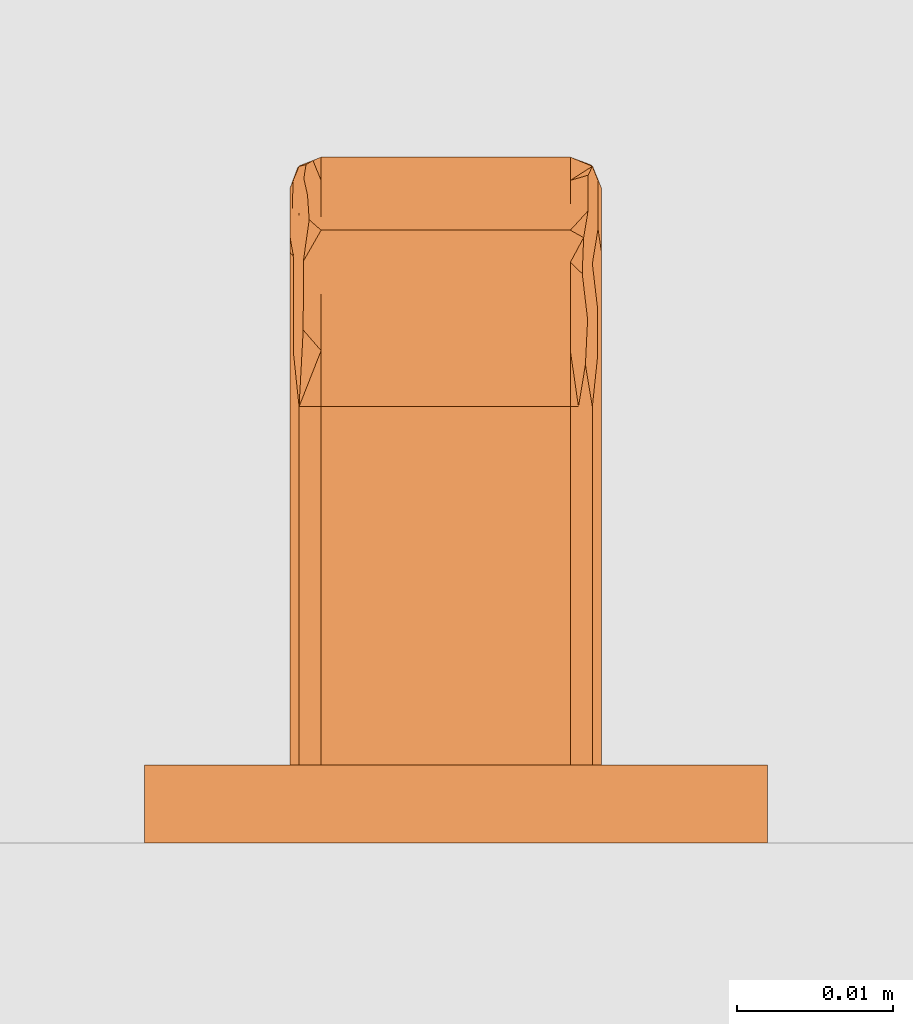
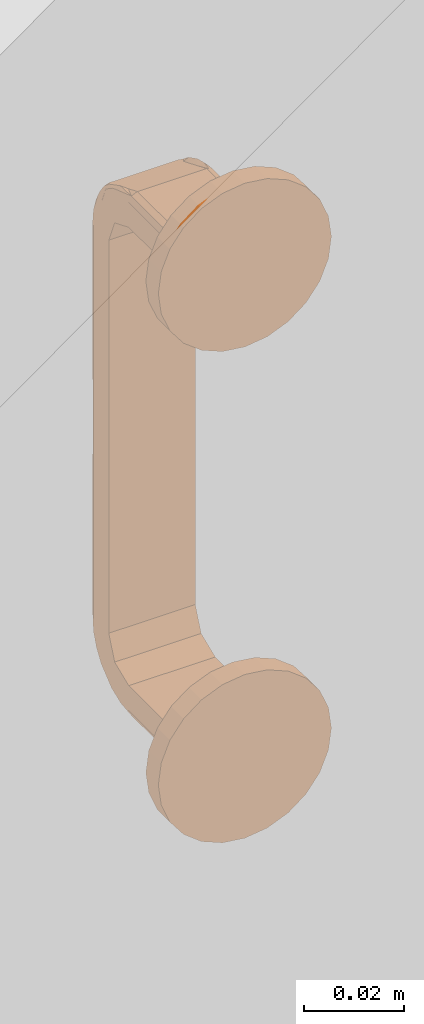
# One storey, part 44 of 67: 1 proxy.
"""IFC4 building model written with IfcOpenShell, lengths in millimetres."""

from ifc_helpers import new_model, entity, si_unit, converted_unit, direction, frame, origin, place, context, subcontext, project, spatial, polygons, source, transform, mapped, material, type_object, type_shapes, element, save


model = new_model("IFC4")

# Units and contexts
model_context = context("Model", 3, precision=0.01, world=origin(), true_north=direction((0.0, 1.0)))
body_context = subcontext(model_context, "Body", "Model", "MODEL_VIEW")
ifc_project = project(units=[si_unit("LENGTHUNIT", "METRE", prefix="MILLI"), si_unit("AREAUNIT", "SQUARE_METRE"), si_unit("VOLUMEUNIT", "CUBIC_METRE"), converted_unit("PLANEANGLEUNIT", "DEGREE", entity("IfcPlaneAngleMeasure", 0.017453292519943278), si_unit("PLANEANGLEUNIT", "RADIAN"), dimensions=[0, 0, 0, 0, 0, 0, 0])], contexts=[model_context])

# Site, building, storey, space
site_placement = place(None, origin())
site = spatial("IfcSite", under=ifc_project, at=site_placement, Name="Tomtens navn", CompositionType="ELEMENT")
building_placement = place(site_placement, origin())
building = spatial("IfcBuilding", under=site, at=building_placement, Name="Byggets navn", CompositionType="ELEMENT")
storey_placement = place(building_placement, origin())
storey = spatial("IfcBuildingStorey", under=building, at=storey_placement, Name="Level 01", CompositionType="ELEMENT", Elevation=2.1993652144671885e-25)
space_placement = place(storey_placement, origin())
space = spatial("IfcSpace", under=storey, at=space_placement, Name="102", CompositionType="ELEMENT", PredefinedType="NOTDEFINED")

# Proxy
ifc_material = material(Name="Handtag, vitt", Category="Unassigned")
building_element_proxy_type = type_object("IfcBuildingElementProxyType", Name="Handtag skåp1:Handtag skåp", PredefinedType="NOTDEFINED", material=ifc_material)
shared_shape = source(origin(), body_context, "Body", "Tessellation", [
    polygons([(8.670220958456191, -4.999999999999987, 4.021099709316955), (10.084434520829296, -4.9999999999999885, 3.435313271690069), (10.67022095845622, -4.999999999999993, 2.021099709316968), (10.67022095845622, -5.0000000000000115, -4.0210997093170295), (-9.32977904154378, -5.0000000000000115, -4.0210997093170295), (-9.32977904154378, -4.999999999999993, 2.021099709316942), (-8.743992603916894, -4.9999999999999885, 3.435313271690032), (-7.32977904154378, -4.999999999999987, 4.021099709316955), (8.670220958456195, -28.00000000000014, 4.0210997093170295), (10.084434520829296, -28.000000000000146, 3.435313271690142), (10.67022095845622, -28.00000000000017, 2.021099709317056), (8.670220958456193, -15.654960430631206, 4.02109970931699), (10.67022095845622, -17.34503987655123, 2.021099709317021), (10.08659387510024, -16.21238630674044, 3.433150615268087), (10.67022095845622, -37.914414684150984, -2.085585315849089), (10.67022095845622, -42.02109970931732, -11.999999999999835), (10.67022095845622, -42.02109970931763, -107.99999999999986), (10.67022095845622, -37.914414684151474, -117.91441468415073), (10.67022095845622, -28.00000000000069, -122.02109970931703), (10.67022095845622, -4.999999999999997, -122.02109970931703), (10.67022095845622, -4.999999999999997, -115.97890029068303), (10.67022095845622, -28.000000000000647, -115.97890029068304), (10.67022095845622, -33.641934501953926, -113.64193450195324), (10.67022095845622, -35.978900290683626, -107.99999999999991), (10.67022095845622, -35.978900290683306, -11.999999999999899), (10.67022095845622, -33.64193450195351, -6.358065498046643), (10.67022095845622, -28.000000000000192, -4.021099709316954), (-9.32977904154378, -28.000000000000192, -4.021099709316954), (-9.32977904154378, -33.64193450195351, -6.358065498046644), (-9.32977904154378, -35.97890029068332, -11.999999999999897), (-9.32977904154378, -35.97890029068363, -107.99999999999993), (-9.32977904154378, -33.641934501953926, -113.64193450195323), (-9.32977904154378, -28.000000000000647, -115.978900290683), (-9.32977904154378, -4.999999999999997, -115.978900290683), (-9.32977904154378, -4.999999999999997, -122.02109970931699), (-9.32977904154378, -28.00000000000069, -122.02109970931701), (-9.32977904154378, -37.91441468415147, -117.91441468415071), (-9.32977904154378, -42.0210997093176, -107.9999999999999), (-9.32977904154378, -42.02109970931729, -11.99999999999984), (-9.32977904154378, -37.91441468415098, -2.085585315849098), (-9.32977904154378, -28.000000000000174, 2.0210997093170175), (-8.743992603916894, -28.000000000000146, 3.435313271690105), (-7.329779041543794, -28.000000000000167, 4.0210997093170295), (-9.32977904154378, -15.654960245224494, 2.0210997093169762), (-7.3297790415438, -17.3450402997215, 4.021099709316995), (-8.741829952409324, -16.212386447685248, 3.4374726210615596), (8.670220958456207, -39.328628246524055, -0.6713717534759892), (8.670220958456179, -44.021099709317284, -11.999999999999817), (10.084434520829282, -43.43531327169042, -11.999999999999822), (10.67022095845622, -31.601265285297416, 0.5294067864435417), (8.670220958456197, -41.037713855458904, -4.797469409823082), (10.084434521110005, -40.40873190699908, -2.820007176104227), (8.670220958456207, -35.20253058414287, 1.0377138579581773), (9.809043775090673, -37.34144424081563, 0.5752165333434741), (9.818751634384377, -32.92350079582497, 2.8642465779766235), (10.67022095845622, -39.96775719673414, -7.042792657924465), (10.377327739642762, -28.000000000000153, 2.7282064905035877), (8.670220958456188, -42.529406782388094, -8.398734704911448), (9.779150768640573, -42.65191997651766, -6.400304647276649), (10.431420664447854, -34.75591670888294, 1.3575143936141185), (10.447049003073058, -37.641402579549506, -0.5884869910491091), (10.67022095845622, -34.7578399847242, -0.7780892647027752), (10.453824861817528, -31.5292743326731, 2.5026982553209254), (8.670220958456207, -31.601265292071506, 2.5294067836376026), (8.670220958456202, -40.18317105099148, -2.7344205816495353), (9.435587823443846, -40.00295364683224, -1.6197407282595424), (9.543801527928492, -41.59747716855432, -3.9137042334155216), (10.67022095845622, -38.941085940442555, -4.564188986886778), (10.502246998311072, -40.95405539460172, -4.794062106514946), (10.477567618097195, -42.45420227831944, -8.476170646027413), (9.193272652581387, -43.80444460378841, -11.999999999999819), (9.638611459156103, -43.53877057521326, -9.303396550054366), (10.67022095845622, -40.99442845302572, -9.521396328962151), (-7.329779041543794, -44.021099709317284, -11.999999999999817), (-7.329779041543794, -39.328628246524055, -0.6713717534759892), (-8.743992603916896, -43.43531327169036, -11.999999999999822), (-7.329779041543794, -35.20253057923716, 1.0377138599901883), (-8.743992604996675, -37.179992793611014, 0.40873192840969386), (-9.32977904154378, -40.52940677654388, -8.39873469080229), (-7.329779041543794, -41.03771385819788, -4.7974694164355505), (-8.468601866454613, -40.57521654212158, -2.658555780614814), (-8.478309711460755, -42.86424658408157, -7.076499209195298), (-9.32977904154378, -32.95720734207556, -0.03224280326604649), (-9.036885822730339, -42.72820649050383, -11.999999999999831), (-7.329779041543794, -31.601265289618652, 2.529406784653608), (-8.43870885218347, -33.59969531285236, 2.6519199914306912), (-9.090978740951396, -41.35751443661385, -5.244083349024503), (-9.106607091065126, -39.41151304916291, -2.3585974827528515), (-9.32977904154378, -39.221910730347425, -5.242160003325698), (-9.11338295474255, -42.50269824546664, -8.470725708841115), (-7.329779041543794, -42.52940678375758, -8.398734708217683), (-7.329779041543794, -37.26557941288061, 0.18317105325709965), (-8.095145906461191, -36.54048464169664, 1.37463273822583), (-8.182791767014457, -38.855367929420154, -0.47819170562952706), (-9.32977904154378, -35.43581101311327, -1.0589140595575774), (-7.852830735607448, -28.00000000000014, 3.8044446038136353), (-8.29816953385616, -30.69660343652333, 3.5387705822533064), (-9.060718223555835, -31.048754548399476, 2.7104148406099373), (-9.074370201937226, -34.340507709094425, 1.5930015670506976), (-9.32977904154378, -30.47860367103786, 0.9944284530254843), (-7.32977904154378, -33.664314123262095, 1.6748639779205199), (8.670220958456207, -33.664314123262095, 1.6748639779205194), (8.670220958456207, -30.748770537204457, 2.882521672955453), (-7.32977904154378, -41.67486397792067, -6.335685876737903), (8.670220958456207, -41.67486397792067, -6.335685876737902), (8.670220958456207, -40.50174611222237, -3.5035288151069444), (-7.32977904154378, -36.496471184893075, 0.5017461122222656), (8.670220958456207, -36.496471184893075, 0.5017461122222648), (-7.32977904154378, -30.83215706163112, 2.847981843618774), (8.670220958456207, -42.882521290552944, -9.251228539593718), (-7.32977904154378, -42.84798184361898, -9.167842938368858), (-7.32977904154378, -40.501746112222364, -3.5035288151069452), (8.670220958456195, -44.0210997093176, -107.99999999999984), (10.084434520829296, -43.435313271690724, -107.99999999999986), (10.67022095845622, -42.02109970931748, -61.38015936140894), (8.670220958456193, -44.021099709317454, -59.99999999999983), (8.670220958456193, -44.02109970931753, -83.30991987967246), (10.67022095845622, -42.02109970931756, -84.69007929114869), (8.670220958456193, -44.021099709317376, -36.69008012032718), (10.67022095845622, -42.02109970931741, -36.69007929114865), (10.67022095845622, -42.02109970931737, -24.34503925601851), (8.670220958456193, -44.021099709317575, -95.65495940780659), (8.670220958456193, -44.02109970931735, -24.345040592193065), (10.67022095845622, -42.021099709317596, -95.65495996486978), (10.084434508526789, -43.43531328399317, -90.1725199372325), (10.67022095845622, -42.021099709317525, -73.03511932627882), (10.043884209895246, -43.4747328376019, -67.20763959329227), (10.084434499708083, -43.435313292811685, -30.517560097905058), (10.084434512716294, -43.435313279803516, -43.7229280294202), (10.67022095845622, -42.021099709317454, -49.035119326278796), (10.049878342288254, -43.469044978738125, -55.462843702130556), (8.670220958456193, -44.02109970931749, -71.65495993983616), (10.188152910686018, -43.32336027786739, -78.66752152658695), (8.670220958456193, -44.02109970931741, -48.345040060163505), (-8.743992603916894, -43.43531327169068, -107.99999999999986), (-7.329779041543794, -44.0210997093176, -107.99999999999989), (-7.3297790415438, -44.02109970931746, -61.38015933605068), (-9.32977904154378, -42.021099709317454, -59.999999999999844), (-9.32977904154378, -42.02109970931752, -83.30992008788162), (-7.329779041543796, -44.02109970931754, -84.69007966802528), (-9.32977904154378, -42.02109970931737, -36.6900794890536), (-7.329779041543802, -44.021099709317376, -36.69007998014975), (-7.329779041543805, -44.02109970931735, -24.345039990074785), (-9.32977904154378, -42.02109970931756, -95.65495983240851), (-9.32977904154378, -42.02109970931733, -24.34503974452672), (-7.329779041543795, -44.021099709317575, -95.6549600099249), (-8.743992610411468, -43.43531326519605, -90.17252002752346), (-7.329779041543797, -44.0210997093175, -73.03511950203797), (-8.783412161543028, -43.39476296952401, -67.20763991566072), (-8.743992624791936, -43.43531325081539, -30.51756039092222), (-8.743992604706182, -43.43531327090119, -43.72292838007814), (-7.3297790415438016, -44.02109970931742, -49.03511997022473), (-8.777724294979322, -43.40075710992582, -55.462844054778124), (-9.32977904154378, -42.02109970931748, -71.65496025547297), (-8.632039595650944, -43.53903167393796, -78.66752173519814), (-9.32977904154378, -42.021099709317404, -48.34503974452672), (8.670220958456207, -39.32862824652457, -119.32862824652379), (8.670220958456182, -28.000000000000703, -124.02109970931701), (10.08443452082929, -28.0000000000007, -123.43531327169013), (10.67022095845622, -40.52940678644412, -111.60126528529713), (8.670220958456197, -35.202530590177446, -121.03771385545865), (10.084434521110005, -37.17999282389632, -120.40873190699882), (8.670220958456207, -41.03771385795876, -115.20253058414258), (9.809043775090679, -40.57521653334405, -117.34144424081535), (9.818751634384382, -42.864246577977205, -112.9235007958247), (10.67022095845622, -32.95720734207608, -119.96775719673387), (10.377327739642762, -42.728206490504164, -107.99999999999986), (8.67022095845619, -31.601265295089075, -122.52940678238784), (9.779150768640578, -33.59969535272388, -122.6519199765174), (10.431420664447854, -41.3575143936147, -114.75591670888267), (10.447049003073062, -39.41151300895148, -117.64140257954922), (10.67022095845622, -39.2219107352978, -114.75783998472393), (10.453824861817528, -42.50269825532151, -111.52927433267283), (8.670220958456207, -42.52940678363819, -111.60126529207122), (8.670220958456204, -37.26557941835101, -120.18317105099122), (9.435587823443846, -38.38025927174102, -120.00295364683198), (9.543801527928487, -36.08629576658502, -121.59747716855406), (10.67022095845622, -35.435811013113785, -118.9410859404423), (10.502246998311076, -35.205937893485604, -120.95405539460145), (10.477567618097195, -31.52382935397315, -122.45420227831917), (9.193272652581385, -28.0000000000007, -123.80444460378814), (9.638611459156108, -30.69660344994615, -123.538770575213), (10.67022095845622, -30.47860367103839, -120.99442845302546), (-7.329779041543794, -28.000000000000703, -124.02109970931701), (-7.329779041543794, -39.32862824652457, -119.32862824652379), (-8.743992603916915, -28.0000000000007, -123.43531327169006), (-7.329779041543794, -41.03771385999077, -115.20253057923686), (-8.743992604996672, -40.40873192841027, -117.17999279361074), (-9.32977904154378, -31.60126530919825, -120.52940677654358), (-7.329779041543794, -35.20253058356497, -121.03771385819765), (-8.468601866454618, -37.341444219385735, -120.57521654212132), (-8.478309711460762, -32.92350079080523, -122.8642465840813), (-9.32977904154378, -39.967757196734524, -112.9572073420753), (-9.036885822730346, -28.000000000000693, -122.72820649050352), (-7.329779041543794, -42.529406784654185, -111.60126528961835), (-8.438708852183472, -42.65191999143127, -113.59969531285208), (-9.090978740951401, -34.75591665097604, -121.35751443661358), (-9.106607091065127, -37.64140251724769, -119.41151304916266), (-9.32977904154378, -34.75783999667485, -119.22191073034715), (-9.113382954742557, -31.529274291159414, -122.50269824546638), (-7.329779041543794, -31.601265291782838, -122.52940678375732), (-7.329779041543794, -40.18317105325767, -117.26557941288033), (-8.095145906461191, -41.37463273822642, -116.54048464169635), (-8.182791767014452, -39.521808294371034, -118.8553679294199), (-9.32977904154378, -38.941085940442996, -115.435811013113), (-7.852830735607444, -43.804444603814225, -107.99999999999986), (-8.298169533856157, -43.53877058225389, -110.69660343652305), (-9.060718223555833, -42.710414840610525, -111.04875454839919), (-9.074370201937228, -41.59300156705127, -114.34050770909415), (-9.32977904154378, -40.99442845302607, -110.47860367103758), (-7.32977904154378, -41.6748639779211, -113.66431412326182), (8.670220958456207, -41.6748639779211, -113.66431412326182), (8.670220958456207, -42.88252167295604, -110.74877053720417), (-7.32977904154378, -33.66431412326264, -121.67486397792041), (8.670220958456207, -33.66431412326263, -121.67486397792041), (8.670220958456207, -36.4964711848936, -120.50174611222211), (-7.32977904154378, -40.50174611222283, -116.49647118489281), (8.670220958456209, -40.50174611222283, -116.49647118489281), (-7.32977904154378, -42.84798184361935, -110.83215706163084), (8.670220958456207, -30.748771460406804, -122.88252129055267), (-7.32977904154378, -30.832157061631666, -122.84798184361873), (-7.32977904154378, -36.49647118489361, -120.50174611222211), (8.670220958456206, -4.99999999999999, -124.02109970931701), (-7.329779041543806, -4.99999999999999, -124.021099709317), (-8.743992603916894, -4.99999999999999, -123.43531327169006), (10.084434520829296, -4.99999999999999, -123.43531327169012), (8.670220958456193, -17.345041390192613, -124.021099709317), (10.67022095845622, -15.654959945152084, -122.02109970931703), (10.086593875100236, -16.787613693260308, -123.43315061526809), (-9.32977904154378, -17.34504010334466, -122.02109970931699), (-7.3297790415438, -15.654959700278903, -124.021099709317), (-8.741829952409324, -16.787613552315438, -123.43747262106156)], [[[8, 1, 2, 3, 4, 5, 6, 7]], [[30, 25, 24, 31]], [[35, 34, 21, 20, 226, 223, 224, 225]], [[13, 10, 57, 11]], [[10, 13, 14]], [[14, 12, 9]], [[12, 2, 1]], [[14, 2, 12]], [[3, 14, 13]], [[3, 2, 14]], [[9, 10, 14]], [[4, 3, 13, 11, 50, 62, 15, 68, 56, 73, 16, 121, 120, 130, 115, 126, 118, 124, 17, 160, 172, 18, 178, 166, 183, 19, 228, 20, 21, 22, 23, 24, 25, 26, 27]], [[5, 4, 27, 28]], [[184, 231, 224, 223, 227, 158]], [[34, 35, 230, 36, 189, 199, 37, 205, 193, 210, 38, 144, 139, 154, 138, 156, 141, 145, 39, 79, 89, 40, 95, 83, 100, 41, 44, 6, 5, 28, 29, 30, 31, 32, 33]], [[45, 42, 96, 43]], [[42, 45, 46]], [[46, 44, 41]], [[44, 7, 6]], [[46, 7, 44]], [[8, 46, 45]], [[8, 7, 46]], [[41, 42, 46]], [[1, 8, 45, 43, 9, 12]], [[33, 22, 21, 34]], [[61, 62, 60]], [[69, 56, 68]], [[47, 65, 66]], [[53, 54, 55]], [[59, 51, 105, 58]], [[67, 65, 106, 51]], [[70, 56, 69]], [[63, 60, 50]], [[10, 64, 55]], [[52, 67, 59]], [[54, 53, 108, 47]], [[58, 71, 72]], [[60, 55, 54]], [[68, 61, 69]], [[67, 52, 66]], [[15, 61, 68]], [[63, 10, 55]], [[11, 57, 10, 63]], [[71, 58, 110, 48]], [[49, 16, 70]], [[61, 60, 54]], [[50, 11, 63]], [[52, 61, 54]], [[62, 61, 15]], [[62, 50, 60]], [[55, 60, 63]], [[10, 9, 103, 64]], [[55, 64, 102, 53]], [[52, 54, 66]], [[54, 47, 66]], [[65, 67, 66]], [[51, 59, 67]], [[61, 52, 69]], [[52, 59, 69]], [[70, 69, 59]], [[59, 72, 70]], [[70, 16, 73, 56]], [[72, 71, 49]], [[70, 72, 49]], [[58, 72, 59]], [[26, 29, 28, 27]], [[25, 30, 29, 26]], [[96, 85, 109, 43]], [[90, 87, 79]], [[86, 77, 101, 85]], [[98, 99, 86]], [[93, 92, 107, 77]], [[87, 82, 81]], [[81, 82, 80]], [[99, 95, 78]], [[88, 89, 87]], [[86, 99, 78]], [[78, 94, 93]], [[76, 91, 82]], [[81, 80, 112, 75]], [[92, 93, 94]], [[94, 78, 88]], [[40, 88, 95]], [[90, 76, 82]], [[39, 84, 76, 90]], [[98, 97, 42]], [[97, 98, 86]], [[88, 87, 81]], [[79, 39, 90]], [[88, 81, 94]], [[89, 88, 40]], [[89, 79, 87]], [[82, 87, 90]], [[76, 74, 111, 91]], [[82, 91, 104, 80]], [[77, 86, 93]], [[86, 78, 93]], [[81, 75, 94]], [[92, 94, 75]], [[95, 88, 78]], [[97, 96, 42]], [[85, 96, 97]], [[85, 97, 86]], [[42, 41, 98]], [[100, 83, 95, 99]], [[99, 98, 100]], [[98, 41, 100]], [[103, 9, 43, 109, 85, 101, 77, 107, 92, 75, 47, 108, 53, 102, 64]], [[105, 51, 106, 65, 47, 75, 112, 80, 104, 91, 111, 74, 48, 110, 58]], [[121, 16, 49, 128, 129, 130, 120]], [[118, 125, 114, 167, 17, 124]], [[126, 133, 118]], [[126, 115, 127]], [[123, 119, 134, 129, 128, 49, 71, 48]], [[125, 117, 122, 113, 114]], [[131, 130, 129]], [[130, 131, 115]], [[126, 127, 133]], [[127, 116, 132]], [[133, 117, 125]], [[131, 134, 116]], [[131, 116, 127]], [[115, 131, 127]], [[131, 129, 134]], [[133, 127, 132]], [[133, 132, 117]], [[118, 133, 125]], [[143, 74, 76, 150, 151, 152, 142]], [[140, 147, 135, 206, 136, 146]], [[148, 155, 140]], [[148, 137, 149]], [[145, 141, 156, 151, 150, 76, 84, 39]], [[147, 139, 144, 38, 135]], [[153, 152, 151]], [[152, 153, 137]], [[148, 149, 155]], [[149, 138, 154]], [[155, 139, 147]], [[153, 156, 138]], [[153, 138, 149]], [[137, 153, 149]], [[153, 151, 156]], [[155, 149, 154]], [[155, 154, 139]], [[140, 155, 147]], [[48, 74, 143, 142, 152, 137, 148, 140, 146, 136, 113, 122, 117, 132, 116, 134, 119, 123]], [[171, 172, 170]], [[179, 166, 178]], [[157, 176, 164]], [[163, 164, 165]], [[169, 161, 215, 168]], [[176, 157, 175]], [[180, 166, 179]], [[173, 170, 160]], [[114, 174, 165]], [[162, 177, 169]], [[164, 163, 218, 157]], [[168, 181, 182]], [[170, 165, 164]], [[178, 171, 179]], [[177, 162, 176]], [[18, 171, 178]], [[173, 114, 165]], [[17, 167, 114, 173]], [[181, 168, 220, 158]], [[159, 19, 180]], [[171, 170, 164]], [[160, 17, 173]], [[162, 171, 164]], [[172, 171, 18]], [[172, 160, 170]], [[165, 170, 173]], [[114, 113, 213, 174]], [[165, 174, 212, 163]], [[177, 175, 216, 161]], [[164, 176, 162]], [[175, 177, 176]], [[161, 169, 177]], [[171, 162, 179]], [[162, 169, 179]], [[180, 179, 169]], [[169, 182, 180]], [[180, 19, 183, 166]], [[182, 181, 159]], [[180, 182, 159]], [[168, 182, 169]], [[23, 32, 31, 24]], [[22, 33, 32, 23]], [[206, 195, 219, 136]], [[200, 197, 189]], [[196, 187, 211, 195]], [[208, 209, 196]], [[203, 202, 217, 187]], [[197, 192, 191]], [[191, 192, 190]], [[209, 205, 188]], [[198, 199, 197]], [[196, 209, 188]], [[188, 204, 203]], [[186, 201, 192]], [[191, 190, 222, 185]], [[202, 203, 204]], [[203, 196, 188]], [[37, 198, 205]], [[200, 186, 192]], [[36, 194, 186, 200]], [[208, 207, 135]], [[207, 208, 196]], [[198, 197, 191]], [[189, 36, 200]], [[198, 191, 204]], [[199, 198, 37]], [[199, 189, 197]], [[192, 197, 200]], [[186, 184, 221, 201]], [[192, 201, 214, 190]], [[196, 203, 187]], [[198, 204, 188]], [[191, 185, 204]], [[202, 204, 185]], [[205, 198, 188]], [[207, 206, 135]], [[195, 206, 207]], [[195, 207, 196]], [[135, 38, 208]], [[210, 193, 205, 209]], [[209, 208, 210]], [[208, 38, 210]], [[213, 113, 136, 219, 195, 211, 187, 217, 202, 185, 157, 218, 163, 212, 174]], [[215, 161, 216, 175, 157, 185, 222, 190, 214, 201, 221, 184, 158, 220, 168]], [[228, 226, 20]], [[226, 228, 229]], [[229, 227, 223]], [[227, 159, 181, 158]], [[229, 159, 227]], [[19, 229, 228]], [[19, 159, 229]], [[223, 226, 229]], [[231, 225, 224]], [[225, 231, 232]], [[232, 230, 35]], [[230, 186, 194, 36]], [[232, 186, 230]], [[184, 232, 231]], [[184, 186, 232]], [[35, 225, 232]]], closed=True),
    polygons([(-20.00000000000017, -4.999999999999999, 1.386238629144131e-14), (-19.318516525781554, -4.999999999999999, -5.176380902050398), (-17.320508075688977, -4.999999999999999, -9.999999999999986), (-14.14213562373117, -4.999999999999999, -14.142135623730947), (-10.000000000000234, -4.999999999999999, -17.320508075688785), (-5.176380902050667, -4.999999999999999, -19.318516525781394), (-2.580269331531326e-13, -4.999999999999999, -20.00000000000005), (5.176380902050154, -4.999999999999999, -19.31851652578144), (9.999999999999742, -4.999999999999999, -17.320508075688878), (14.142135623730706, -4.999999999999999, -14.142135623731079), (17.320508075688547, -4.999999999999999, -10.000000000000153), (19.318516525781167, -4.999999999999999, -5.176380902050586), (19.999999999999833, -4.999999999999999, -5.075939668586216e-14), (19.3185165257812, -4.999999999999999, 5.17638090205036), (17.32050807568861, -4.999999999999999, 9.999999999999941), (14.142135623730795, -4.999999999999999, 14.142135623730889), (9.99999999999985, -4.999999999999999, 17.32050807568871), (5.176380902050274, -4.999999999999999, 19.31851652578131), (-1.3958834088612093e-13, -4.999999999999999, 19.99999999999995), (-5.176380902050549, -4.999999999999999, 19.318516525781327), (-10.000000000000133, -4.999999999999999, 17.320508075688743), (-14.142135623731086, -4.999999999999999, 14.142135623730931), (-17.320508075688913, -4.999999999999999, 9.999999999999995), (-19.318516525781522, -4.999999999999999, 5.176380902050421), (-20.00000000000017, 0.0, 4.9806020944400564e-15), (-19.318516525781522, 0.0, 5.176380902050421), (-17.320508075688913, 0.0, 9.999999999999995), (-14.142135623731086, 0.0, 14.142135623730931), (-10.000000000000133, 0.0, 17.320508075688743), (-5.176380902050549, 0.0, 19.318516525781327), (-1.3958834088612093e-13, 0.0, 19.99999999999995), (5.176380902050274, 0.0, 19.31851652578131), (9.99999999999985, 0.0, 17.32050807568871), (14.142135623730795, 0.0, 14.142135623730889), (17.32050807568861, 0.0, 9.999999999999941), (19.3185165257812, 0.0, 5.17638090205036), (19.999999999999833, 0.0, -1.622393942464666e-13), (19.318516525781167, 0.0, -5.176380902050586), (17.320508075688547, 0.0, -10.000000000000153), (14.142135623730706, 0.0, -14.142135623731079), (9.999999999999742, 0.0, -17.320508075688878), (5.176380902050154, 0.0, -19.31851652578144), (-2.580269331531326e-13, 0.0, -20.00000000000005), (-5.176380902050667, 0.0, -19.318516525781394), (-10.000000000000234, 0.0, -17.320508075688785), (-14.14213562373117, 0.0, -14.142135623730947), (-17.320508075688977, 0.0, -9.999999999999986), (-19.318516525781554, 0.0, -5.176380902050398)], [[[8, 9, 10, 11, 12, 13, 14, 15, 16, 17, 18, 19, 20, 21, 22, 23, 24, 1, 2, 3, 4, 5, 6, 7]], [[31, 32, 33, 34, 35, 36, 37, 38, 39, 40, 41, 42, 43, 44, 45, 46, 47, 48, 25, 26, 27, 28, 29, 30]], [[48, 2, 1, 25]], [[47, 3, 2, 48]], [[5, 4, 46, 45]], [[47, 46, 4, 3]], [[6, 5, 45, 44]], [[7, 6, 44, 43]], [[42, 8, 7, 43]], [[41, 9, 8, 42]], [[11, 10, 40, 39]], [[41, 40, 10, 9]], [[12, 11, 39, 38]], [[13, 12, 38, 37]], [[36, 14, 13, 37]], [[35, 15, 14, 36]], [[17, 16, 34, 33]], [[35, 34, 16, 15]], [[18, 17, 33, 32]], [[19, 18, 32, 31]], [[30, 20, 19, 31]], [[29, 21, 20, 30]], [[23, 22, 28, 27]], [[29, 28, 22, 21]], [[24, 23, 27, 26]], [[1, 24, 26, 25]]], closed=True),
    polygons([(-20.000000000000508, -4.999999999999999, -120.0), (-19.31851652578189, -4.999999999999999, -125.17638090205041), (-17.32050807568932, -4.999999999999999, -130.0), (-14.142135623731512, -4.999999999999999, -134.14213562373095), (-10.000000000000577, -4.999999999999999, -137.3205080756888), (-5.176380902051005, -4.999999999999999, -139.3185165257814), (-6.006528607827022e-13, -4.999999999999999, -140.00000000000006), (5.176380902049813, -4.999999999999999, -139.31851652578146), (9.999999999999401, -4.999999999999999, -137.3205080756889), (14.142135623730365, -4.999999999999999, -134.1421356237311), (17.320508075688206, -4.999999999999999, -130.00000000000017), (19.318516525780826, -4.999999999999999, -125.1763809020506), (19.999999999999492, -4.999999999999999, -120.00000000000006), (19.31851652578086, -4.999999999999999, -114.82361909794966), (17.32050807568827, -4.999999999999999, -110.00000000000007), (14.142135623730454, -4.999999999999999, -105.85786437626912), (9.99999999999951, -4.999999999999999, -102.6794919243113), (5.176380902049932, -4.999999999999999, -100.6814834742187), (-4.779843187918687e-13, -4.999999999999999, -100.00000000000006), (-5.176380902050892, -4.999999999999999, -100.68148347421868), (-10.000000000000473, -4.999999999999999, -102.67949192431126), (-14.142135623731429, -4.999999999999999, -105.85786437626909), (-17.320508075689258, -4.999999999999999, -110.00000000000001), (-19.31851652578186, -4.999999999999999, -114.82361909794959), (-20.000000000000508, 0.0, -120.00000000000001), (-19.31851652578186, 0.0, -114.82361909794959), (-17.320508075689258, 0.0, -110.00000000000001), (-14.142135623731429, 0.0, -105.85786437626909), (-10.000000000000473, 0.0, -102.67949192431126), (-5.176380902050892, 0.0, -100.68148347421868), (-4.779843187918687e-13, 0.0, -100.00000000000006), (5.176380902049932, 0.0, -100.6814834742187), (9.99999999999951, 0.0, -102.6794919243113), (14.142135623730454, 0.0, -105.85786437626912), (17.32050807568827, 0.0, -110.00000000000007), (19.31851652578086, 0.0, -114.82361909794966), (19.999999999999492, 0.0, -120.00000000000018), (19.318516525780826, 0.0, -125.1763809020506), (17.320508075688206, 0.0, -130.00000000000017), (14.142135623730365, 0.0, -134.1421356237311), (9.999999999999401, 0.0, -137.3205080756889), (5.176380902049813, 0.0, -139.31851652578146), (-6.006528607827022e-13, 0.0, -140.00000000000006), (-5.176380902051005, 0.0, -139.3185165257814), (-10.000000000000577, 0.0, -137.3205080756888), (-14.142135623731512, 0.0, -134.14213562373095), (-17.32050807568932, 0.0, -130.0), (-19.31851652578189, 0.0, -125.17638090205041)], [[[7, 8, 9, 10, 11, 12, 13, 14, 15, 16, 17, 18, 19, 20, 21, 22, 23, 24, 1, 2, 3, 4, 5, 6]], [[31, 32, 33, 34, 35, 36, 37, 38, 39, 40, 41, 42, 43, 44, 45, 46, 47, 48, 25, 26, 27, 28, 29, 30]], [[48, 2, 1, 25]], [[47, 3, 2, 48]], [[5, 4, 46, 45]], [[47, 46, 4, 3]], [[6, 5, 45, 44]], [[7, 6, 44, 43]], [[42, 8, 7, 43]], [[41, 9, 8, 42]], [[11, 10, 40, 39]], [[41, 40, 10, 9]], [[12, 11, 39, 38]], [[13, 12, 38, 37]], [[36, 14, 13, 37]], [[35, 15, 14, 36]], [[17, 16, 34, 33]], [[35, 34, 16, 15]], [[18, 17, 33, 32]], [[19, 18, 32, 31]], [[30, 20, 19, 31]], [[29, 21, 20, 30]], [[23, 22, 28, 27]], [[29, 28, 22, 21]], [[24, 23, 27, 26]], [[1, 24, 26, 25]]], closed=True),
])
type_shapes(building_element_proxy_type, [shared_shape])
proxy_placement = place(space_placement, frame((66051.85352810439, 18543.46645692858, 1120.0), z_axis=(0.0, 0.0, 1.0), x_axis=(-1.0, 0.0, 0.0)))
element("IfcBuildingElementProxy", 1, at=proxy_placement, inside=space, type_object=building_element_proxy_type, material=ifc_material, Name="Handtag skåp1:Handtag skåp", PredefinedType="NOTDEFINED", context=body_context, shape_type="MappedRepresentation", body=[
    mapped(shared_shape, transform((0.0, 0.0, 0.0), scale=1.0)),
])

save(model, "model.ifc")
